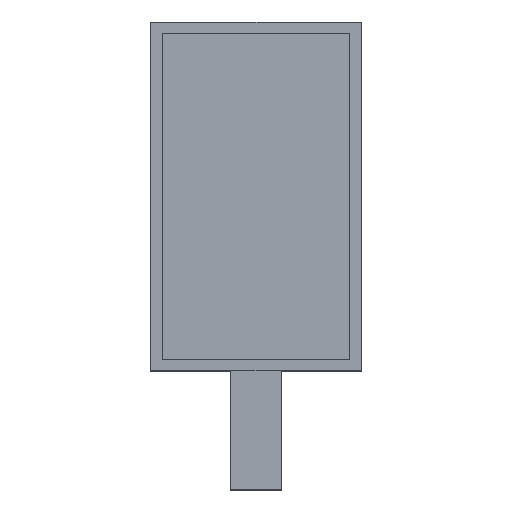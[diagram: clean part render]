
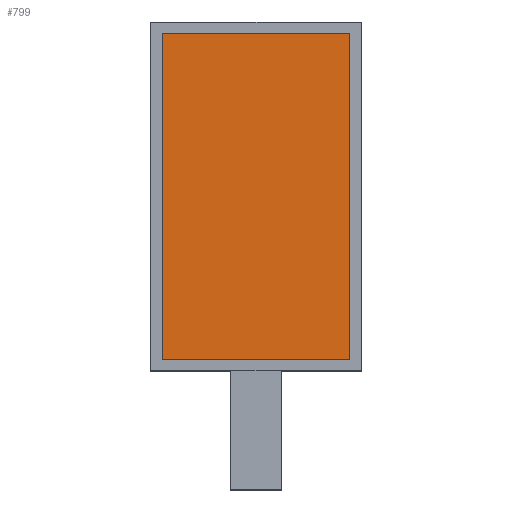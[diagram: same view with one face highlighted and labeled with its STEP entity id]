
A CAD part, top view. The second image highlights one B-rep face of the part: STEP entity #799.
In plain terms, the highlighted planar face has unit normal (0, 0, 1).
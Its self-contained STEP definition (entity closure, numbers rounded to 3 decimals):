
#123 = ORIENTED_EDGE ( 'NONE', *, *, #501, .T. ) ;
#138 = VECTOR ( 'NONE', #271, 1000. ) ;
#271 = DIRECTION ( 'NONE',  ( 0., -1., 0. ) ) ;
#310 = CARTESIAN_POINT ( 'NONE',  ( 0., 0., 117.5 ) ) ;
#328 = FACE_OUTER_BOUND ( 'NONE', #642, .T. ) ;
#337 = CARTESIAN_POINT ( 'NONE',  ( -550., 2680., 117.5 ) ) ;
#430 = EDGE_CURVE ( 'NONE', #1017, #727, #1257, .T. ) ;
#482 = VERTEX_POINT ( 'NONE', #582 ) ;
#501 = EDGE_CURVE ( 'NONE', #727, #870, #1014, .T. ) ;
#565 = CARTESIAN_POINT ( 'NONE',  ( -550., 2680., 117.5 ) ) ;
#582 = CARTESIAN_POINT ( 'NONE',  ( 550., 2680., 117.5 ) ) ;
#590 = AXIS2_PLACEMENT_3D ( 'NONE', #310, #834, #822 ) ;
#615 = DIRECTION ( 'NONE',  ( -1., 0., 0. ) ) ;
#637 = EDGE_CURVE ( 'NONE', #482, #1017, #1069, .T. ) ;
#642 = EDGE_LOOP ( 'NONE', ( #662, #123, #663, #1072 ) ) ;
#662 = ORIENTED_EDGE ( 'NONE', *, *, #430, .T. ) ;
#663 = ORIENTED_EDGE ( 'NONE', *, *, #1191, .T. ) ;
#672 = CARTESIAN_POINT ( 'NONE',  ( -550., 2680., 117.5 ) ) ;
#684 = VECTOR ( 'NONE', #702, 1000. ) ;
#702 = DIRECTION ( 'NONE',  ( 1., 0., 0. ) ) ;
#722 = PLANE ( 'NONE',  #590 ) ;
#727 = VERTEX_POINT ( 'NONE', #998 ) ;
#799 = ADVANCED_FACE ( 'NONE', ( #328 ), #722, .T. ) ;
#804 = CARTESIAN_POINT ( 'NONE',  ( -550., 769., 117.5 ) ) ;
#822 = DIRECTION ( 'NONE',  ( 1., 0., 0. ) ) ;
#834 = DIRECTION ( 'NONE',  ( 0., 0., 1. ) ) ;
#870 = VERTEX_POINT ( 'NONE', #1241 ) ;
#880 = VECTOR ( 'NONE', #615, 1000. ) ;
#998 = CARTESIAN_POINT ( 'NONE',  ( -550., 769., 117.5 ) ) ;
#1009 = DIRECTION ( 'NONE',  ( 0., 1., 0. ) ) ;
#1014 = LINE ( 'NONE', #804, #684 ) ;
#1017 = VERTEX_POINT ( 'NONE', #672 ) ;
#1069 = LINE ( 'NONE', #337, #880 ) ;
#1072 = ORIENTED_EDGE ( 'NONE', *, *, #637, .T. ) ;
#1191 = EDGE_CURVE ( 'NONE', #870, #482, #1235, .T. ) ;
#1235 = LINE ( 'NONE', #1303, #1321 ) ;
#1241 = CARTESIAN_POINT ( 'NONE',  ( 550., 769., 117.5 ) ) ;
#1257 = LINE ( 'NONE', #565, #138 ) ;
#1303 = CARTESIAN_POINT ( 'NONE',  ( 550., 2680., 117.5 ) ) ;
#1321 = VECTOR ( 'NONE', #1009, 1000. ) ;
